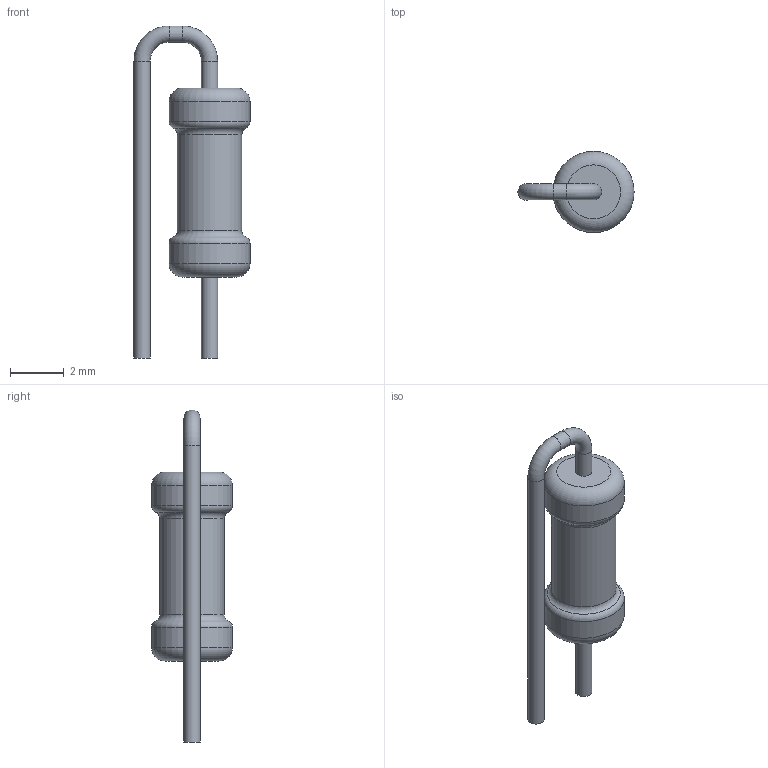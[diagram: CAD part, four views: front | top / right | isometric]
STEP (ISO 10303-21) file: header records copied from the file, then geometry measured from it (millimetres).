
FILE_DESCRIPTION(('STEP AP203'), '1');
FILE_NAME('栖闉罻', '', ('UNSPECIFIED'), ('UNSPECIFIED'), 'ASCON STEP Converter 1.6', 'ASCON Math Kernel', '');
FILE_SCHEMA(('CONFIG_CONTROL_DESIGN'));
Length unit declared in the file: millimetre
Assembly tree (1 placements, depth 2):
  (unnamed)
    (unnamed)
Bounding box: 4.3 x 3 x 12.3 mm (x, y, z)
Volume: 43.5 mm3; surface area: 105.4 mm2
Topology: 1 solids, 1 shells, 19 faces, 33 edges, 18 vertices
Faces by surface type: torus 8, cylinder 7, plane 4
Full cylindrical faces by diameter (mm): 0.6 x4, 2.4 x1, 3 x2
Entity records: 620 total; most frequent: DIRECTION 78, CARTESIAN_POINT 57, AXIS2_PLACEMENT_3D 39, EDGE_LOOP 36, ORIENTED_EDGE 36, FACE_OUTER_BOUND 30, COLOUR_RGB 20, FILL_AREA_STYLE_COLOUR 20
